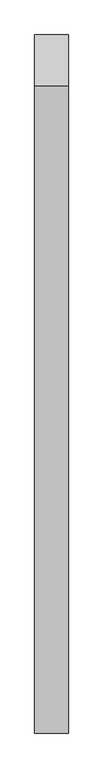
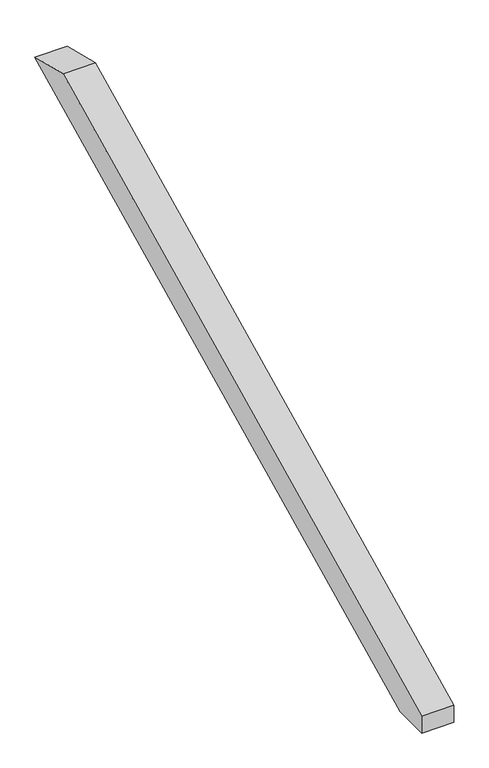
"""IFC4 building model written with IfcOpenShell, lengths in millimetres: proxy geometry, Modelos genéricos 97 : Modelos genéricos 16."""

from ifc_helpers import new_model, si_unit, frame, origin, place, context, project, spatial, polyline, outline, extrude, source, transform, mapped, element, save


def generic_models_dbdfc033(model_context):
    return source(origin(), model_context, "Body", "SweptSolid", [
        extrude(outline(polyline([(3173.8548825, 3756.8218964), (3264.4256133, 3734.240077), (2087.0589775, 3160.0), (2018.6238165, 3160.0), (2018.6238165, 3193.3780582), (3173.8548825, 3756.8218964)])), frame((1923.4472467, 0.0, 0.0), z_axis=(1.0, 0.0, 0.0), x_axis=(0.0, 1.0, 0.0)), (0.0, 0.0, 1.0), 60.0),
    ])


if __name__ == "__main__":
    model = new_model("IFC4")
    model_context = context("Model", 3, world=origin())
    ifc_project = project(units=[si_unit("LENGTHUNIT", "METRE", prefix="MILLI")], contexts=[model_context])
    site = spatial("IfcSite", under=ifc_project)
    building = spatial("IfcBuilding", under=site)
    placement = place(None, origin())
    generic_models_shape = generic_models_dbdfc033(model_context)
    element("IfcBuildingElementProxy", 1, Name="Modelos genéricos 97 : Modelos genéricos 16", ObjectType="Modelos genéricos 97 : Modelos genéricos 16", at=placement, inside=building, context=model_context, shape_type="MappedRepresentation", body=[
        mapped(generic_models_shape, transform((0.0, 0.0, 0.0), x_axis=(1.0, 0.0, 0.0), y_axis=(0.0, 1.0, 0.0), z_axis=(0.0, 0.0, 1.0))),
    ])
    save(model, "model.ifc")
